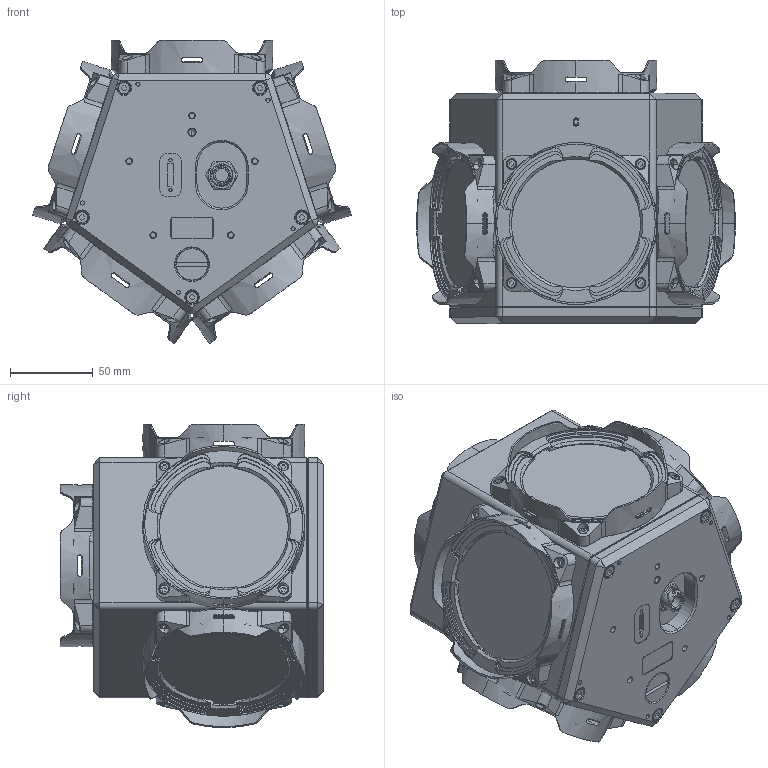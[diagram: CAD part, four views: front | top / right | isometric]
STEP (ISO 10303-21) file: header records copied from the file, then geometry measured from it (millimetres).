
FILE_DESCRIPTION (( 'STEP AP203' ), '1' );
FILE_NAME ('LD5-002-R0.STEP', '2016-12-05T17:29:41', ( '' ), ( '' ), 'SwSTEP 2.0', 'SolidWorks 2015', '' );
FILE_SCHEMA (( 'CONFIG_CONTROL_DESIGN' ));
Products named in the file (1): LD5-002-R0
Bounding box: 192.91 x 159.5 x 183.47 mm (x, y, z)
Volume: 2572243.9 mm3; surface area: 160726.3 mm2
Topology: 1 solids, 1 shells, 1987 faces, 5410 edges, 3506 vertices
Faces by surface type: plane 723, cylinder 710, cone 382, bspline 166, torus 6
Entity records: 71561 total; most frequent: CARTESIAN_POINT 22076, ORIENTED_EDGE 10794, DIRECTION 9960, EDGE_CURVE 5397, AXIS2_PLACEMENT_3D 3742, VERTEX_POINT 3506, VECTOR 2476, LINE 2476
